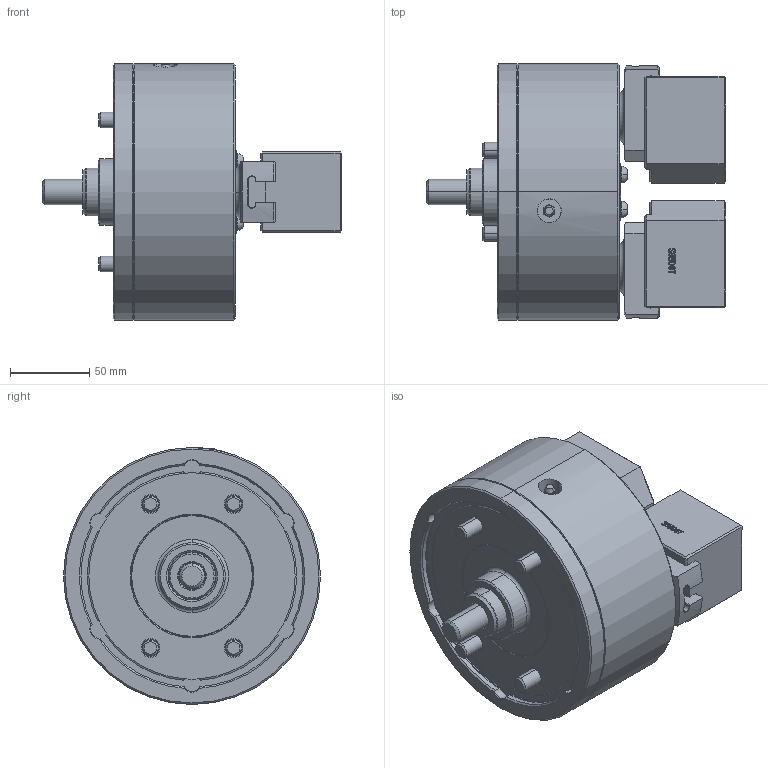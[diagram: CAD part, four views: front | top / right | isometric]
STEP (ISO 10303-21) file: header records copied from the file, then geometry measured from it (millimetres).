
FILE_DESCRIPTION (( 'STEP AP214' ), '1' );
FILE_NAME ('PWT06_CL_OD.STEP', '2019-10-21T02:19:09', ( '' ), ( '' ), 'SwSTEP 2.0', 'SolidWorks 2017', '' );
FILE_SCHEMA (( 'AUTOMOTIVE_DESIGN' ));
Length unit declared in the file: millimetre
Products named in the file (5): PWT06_CL_OD; 結合_OD; 0030110016; 61P422013; 61P332343
Assembly tree (9 placements, depth 2):
  PWT06_CL_OD
    61P332343  x2
    61P422013  x2
    0030110016  x4
    結合_OD
Bounding box: 188.69 x 162 x 162 mm (x, y, z)
Volume: 1869732.3 mm3; surface area: 197157.2 mm2
Topology: 9 solids, 10 shells, 1688 faces, 4210 edges, 2659 vertices
Faces by surface type: plane 813, bspline 329, cone 262, cylinder 228, torus 56
Entity records: 51687 total; most frequent: CARTESIAN_POINT 20031, ORIENTED_EDGE 6950, DIRECTION 5675, EDGE_CURVE 3475, VERTEX_POINT 2208, VECTOR 1919, LINE 1919, AXIS2_PLACEMENT_3D 1878
